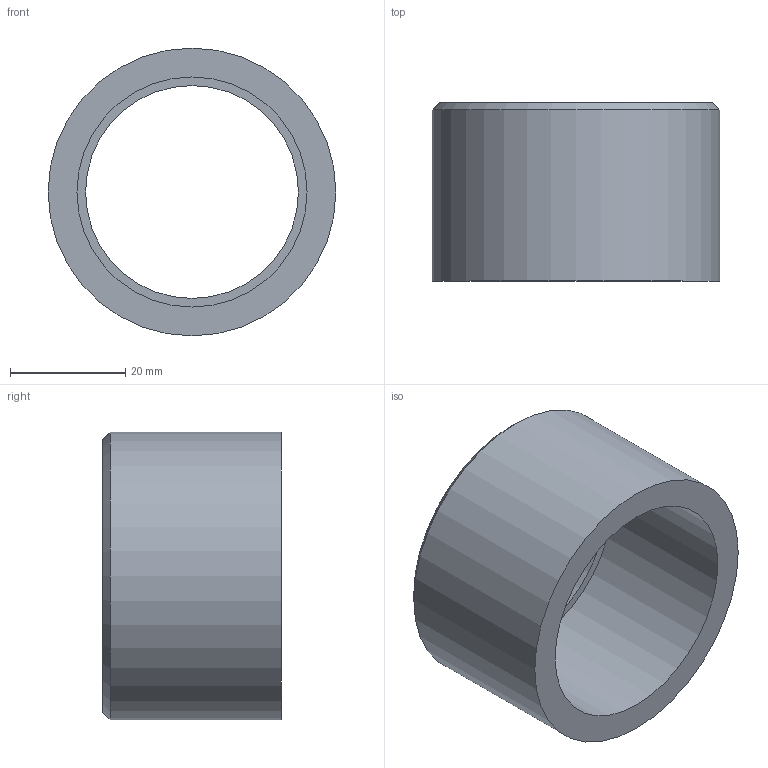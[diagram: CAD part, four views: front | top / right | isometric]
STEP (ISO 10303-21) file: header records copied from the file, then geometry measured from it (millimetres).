
FILE_DESCRIPTION(/* description */ ('PVC riduzione corta incollaggio metrica'),/* implementation_level */ '2;1');
FILE_NAME(/* name */ 'C:\Users\POLYPIPE\Desktop\DATASET INVENTOR\LIBRERIA EFFAST\RACCORDI 3DxWEB\RDR\3D_RDRRCD\3D_RDRRCD050E.stp',/* time_stamp */ '2018-01-19T15:30:49+01:00',/* author */ ('POLYPIPE'),/* organization */ ('Polypipe Italia s.r.l.'),/* preprocessor_version */ 'ST-DEVELOPER v16.1',/* originating_system */ 'Autodesk Inventor 2016',/* authorisation */ '');
FILE_SCHEMA (('CONFIG_CONTROL_DESIGN'));
Length unit declared in the file: millimetre
Products named in the file (1): 3D_RDRRCD
Bounding box: 50 x 31 x 50 mm (x, y, z)
Volume: 22449.8 mm3; surface area: 10277.1 mm2
Topology: 1 solids, 1 shells, 8 faces, 13 edges, 8 vertices
Faces by surface type: plane 3, cylinder 3, cone 2
Full cylindrical faces by diameter (mm): 37 x1, 40 x1, 50 x1
Entity records: 192 total; most frequent: DIRECTION 34, CARTESIAN_POINT 25, AXIS2_PLACEMENT_3D 17, EDGE_LOOP 16, ORIENTED_EDGE 16, FACE_BOUND 8, FACE_OUTER_BOUND 8, CIRCLE 8
